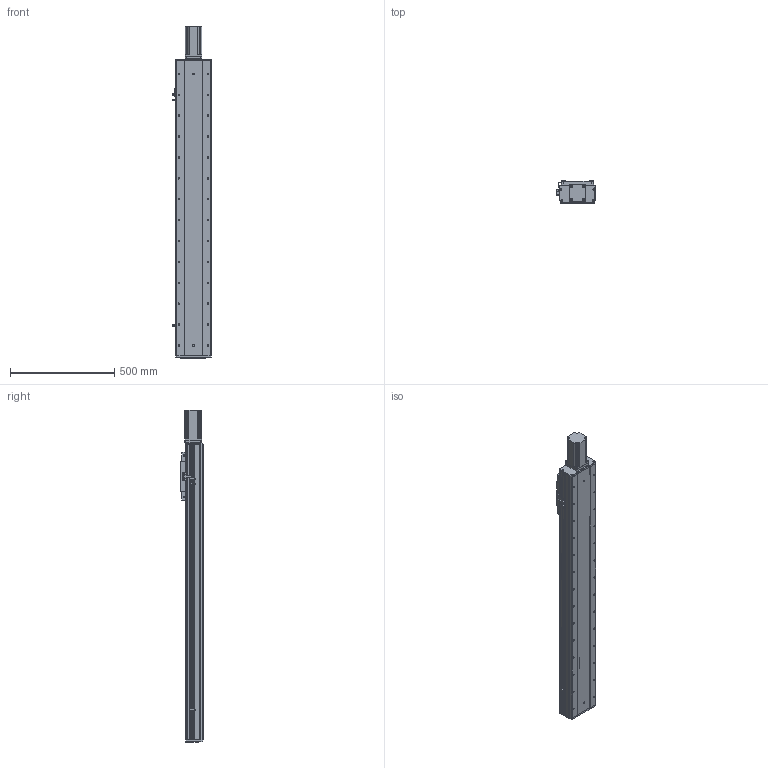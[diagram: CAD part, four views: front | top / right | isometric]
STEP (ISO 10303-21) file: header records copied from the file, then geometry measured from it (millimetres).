
FILE_DESCRIPTION (( 'STEP AP203' ), '1' );
FILE_NAME ('RY170F-L2020-300-MK.SLDASM_1100.step', '2021-03-02T06:31:57', ( '盈信电脑' ), ( '东莞市道滘镇水果街19号' ), 'SwSTEP 2.0', 'SolidWorks 2012', '' );
FILE_SCHEMA (( 'CONFIG_CONTROL_DESIGN' ));
Length unit declared in the file: millimetre
Products named in the file (22): 覜茼ん674; 怢湛750W萇儂ㄗ80遺ㄘ; 侐源滅袉蝶; RY170F-L2020-300-MK.SLDASM_1100; RY170F-揤踡謫假蚾粣; 750W萇儂梓袧蛌諉啣; RY170F-詩湍揤踡輸; 滅袉蝶18-24; 覜茼ん672; RY170F-后盖板(铝件）; RY170F俋离覜茼え; RY100F-詩湍揤踡謫; 滅袉蝶18-10; 侂狟400W侜督萇儂; RY170F-直连前盖板(铝件）; RY170F-滅鳥奻裔; RY170F-丝杆铝滑块连接板; 15; RY170F-佪裝臏賑輸20蹟譫; RY170F-300眻蟀倰第奻裔啣-MK_1100; RY170F-300眻蟀倰第菁釱-MK_1100; RY170F-300眻蟀祥凄詩湍-MK_1100
Assembly tree (26 placements, depth 3):
  RY170F-L2020-300-MK.SLDASM_1100
    RY170F-300眻蟀倰第菁釱-MK_1100
    RY170F-300眻蟀祥凄詩湍-MK_1100
    RY170F-300眻蟀倰第奻裔啣-MK_1100  x2
    RY170F-滅鳥奻裔
    RY170F-佪裝臏賑輸20蹟譫
    RY170F-丝杆铝滑块连接板
    侂狟400W侜督萇儂
      15
    RY170F-直连前盖板(铝件）
    滅袉蝶18-10
    RY100F-詩湍揤踡謫
    RY170F-后盖板(铝件）
    覜茼ん672  x3
    RY170F俋离覜茼え
    RY170F-揤踡謫假蚾粣
    RY170F-詩湍揤踡輸  x2
    滅袉蝶18-24
    750W萇儂梓袧蛌諉啣
    怢湛750W萇儂ㄗ80遺ㄘ
    侐源滅袉蝶  x2
    覜茼ん674
Bounding box: 183.7 x 107 x 1589 mm (x, y, z)
Volume: 8096195.7 mm3; surface area: 2586553 mm2
Topology: 25 solids, 25 shells, 2324 faces, 6391 edges, 4072 vertices
Faces by surface type: cylinder 1045, plane 1001, cone 260, bspline 18
Entity records: 68067 total; most frequent: CARTESIAN_POINT 13351, DIRECTION 11233, ORIENTED_EDGE 10678, EDGE_CURVE 5339, AXIS2_PLACEMENT_3D 4020, VERTEX_POINT 3492, LINE 3193, VECTOR 3193
